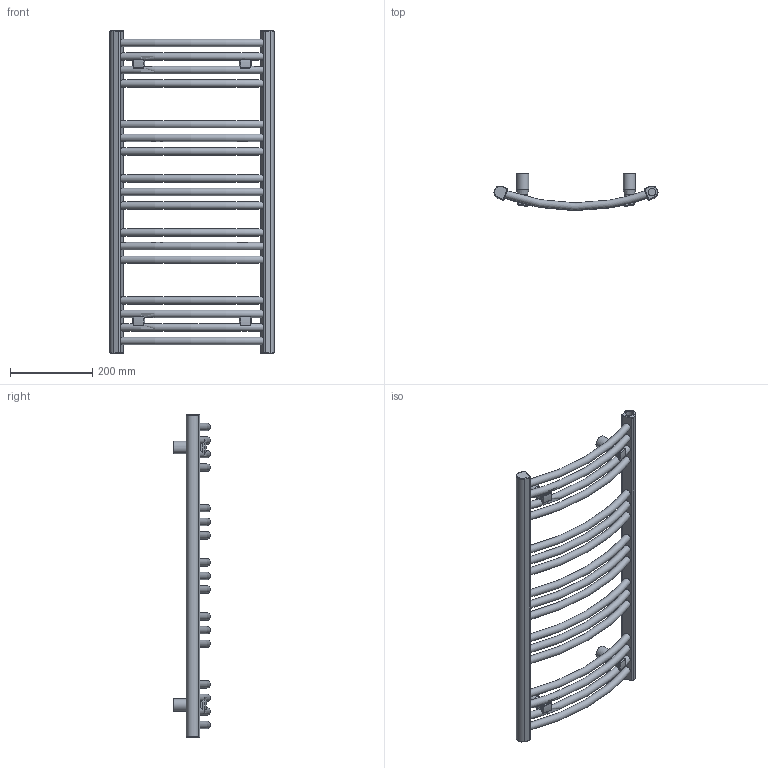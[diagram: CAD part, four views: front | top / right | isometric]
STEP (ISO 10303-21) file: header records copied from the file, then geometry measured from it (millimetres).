
FILE_DESCRIPTION((''),'2;1');
FILE_NAME('Z:\R\G\P\RGPH14 - Grzejnik Domi\Work\Inventor\Marketing\STEP\DO-78-40 SX.stp','2012-07-23T17:02:29',('PioRo'),(''),'Autodesk Inventor 2012','Autodesk Inventor 2012','');
FILE_SCHEMA(('AUTOMOTIVE_DESIGN { 1 0 10303 214 1 1 1 1 }'));
Length unit declared in the file: millimetre
Products named in the file (1): DO-78-40 SX
Bounding box: 400 x 89.99 x 786 mm (x, y, z)
Volume: 2927528.9 mm3; surface area: 531374.9 mm2
Topology: 1 solids, 5 shells, 215 faces, 512 edges, 324 vertices
Faces by surface type: cylinder 85, plane 73, torus 33, bspline 20, cone 4
Full cylindrical faces by diameter (mm): 5 x8, 9 x4, 18.631 x3, 21.8 x4, 30 x4
Entity records: 7166 total; most frequent: CARTESIAN_POINT 2104, DIRECTION 996, ORIENTED_EDGE 912, EDGE_CURVE 456, AXIS2_PLACEMENT_3D 424, EDGE_LOOP 332, VERTEX_POINT 312, FACE_OUTER_BOUND 215
